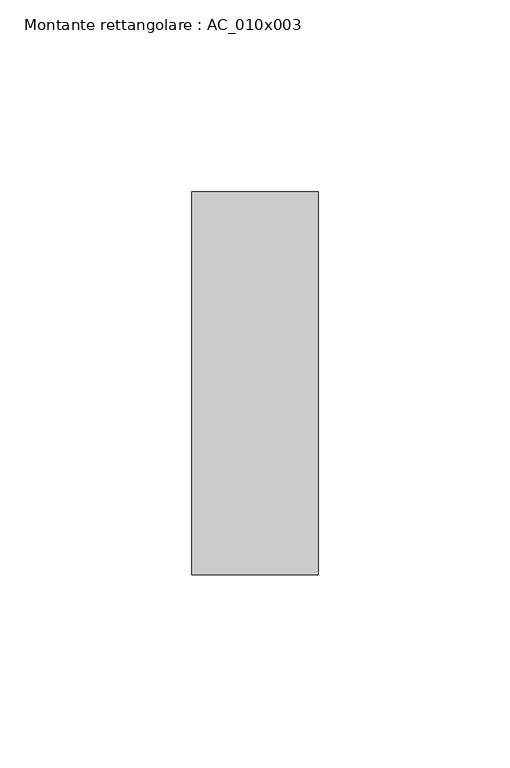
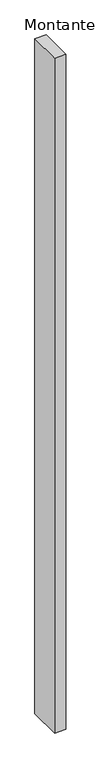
"""IFC4 building model written with IfcOpenShell, lengths in millimetres: member geometry, Montante rettangolare : AC_010x003."""

import ifcopenshell
import ifcopenshell.guid

model = None  # the IFC model being written
_history = None  # IfcOwnerHistory: only IFC2X3 demands one
_inside = {}  # id of a spatial element -> (the spatial element, [elements in it])
_under = {}  # id of a project, library or spatial element -> (it, [spatial elements below it])
_declared = {}  # id of a project -> (the project, [libraries it declares])
_typed = {}  # id of a type object -> (the type object, [elements of that type])
_made_of = {}  # id of a material, layer set ... -> (it, [elements and type objects made of it])


def new_model(schema):
    """Start an empty IFC model of exactly this schema.

    Asked for "IFC4X3", IfcOpenShell would pick the latest addendum, in which some entities
    have other attributes; the version numbers below select the first issue.
    IFC2X3 requires an IfcOwnerHistory on every rooted entity: one is made here for all.
    """
    global model, _history
    if schema == "IFC4X3":
        model = ifcopenshell.file(schema_version=(4, 3, 0, 0))
    else:
        model = ifcopenshell.file(schema=schema)
    _inside.clear()
    _under.clear()
    _declared.clear()
    _typed.clear()
    _made_of.clear()
    _history = None
    if model.schema == "IFC2X3":
        org = make("IfcOrganization", Name="unknown")
        user = make(
            "IfcPersonAndOrganization",
            ThePerson=make("IfcPerson", FamilyName="unknown"),
            TheOrganization=org,
        )
        app = make(
            "IfcApplication",
            ApplicationDeveloper=org,
            Version="unknown",
            ApplicationFullName="unknown",
            ApplicationIdentifier="unknown",
        )
        _history = make(
            "IfcOwnerHistory",
            OwningUser=user,
            OwningApplication=app,
            ChangeAction="ADDED",
            CreationDate=0,
        )
    return model


def make(cls, **values):
    """One entity of the class cls with the attributes given. An attribute that is None is left unset."""
    return model.create_entity(
        cls, **{name: value for name, value in values.items() if value is not None}
    )


def rooted(cls, **values):
    """An entity with a GlobalId (a new one), such as an element, a storey or a relation."""
    return make(cls, GlobalId=ifcopenshell.guid.new(), OwnerHistory=_history, **values)


def si_unit(unit_type, name, prefix=None):
    """IfcSIUnit, for example si_unit("LENGTHUNIT", "METRE", prefix="MILLI")."""
    return make("IfcSIUnit", UnitType=unit_type, Prefix=prefix, Name=name)


def assignment(units):
    """IfcUnitAssignment: the units of a project."""
    return None if units is None else make("IfcUnitAssignment", Units=units)


def point(xyz):
    """IfcCartesianPoint."""
    return None if xyz is None else make("IfcCartesianPoint", Coordinates=xyz)


def direction(xyz):
    """IfcDirection."""
    return None if xyz is None else make("IfcDirection", DirectionRatios=xyz)


def frame(location, z_axis=None, x_axis=None):
    """IfcAxis2Placement3D, a coordinate frame: its origin and axes. An axis left out is left unset."""
    return make(
        "IfcAxis2Placement3D",
        Location=point(location),
        Axis=direction(z_axis),
        RefDirection=direction(x_axis),
    )


def origin():
    """The frame at (0, 0, 0) with its axes left unset."""
    return frame((0.0, 0.0, 0.0))


def place(relative_to, where):
    """IfcLocalPlacement: puts the frame where relative to a parent placement (None: the world)."""
    return make(
        "IfcLocalPlacement", PlacementRelTo=relative_to, RelativePlacement=where
    )


def context(
    kind, dimensions, precision=None, world=None, true_north=None, identifier=None
):
    """IfcGeometricRepresentationContext, for example the 3D "Model" context."""
    return make(
        "IfcGeometricRepresentationContext",
        ContextIdentifier=identifier,
        ContextType=kind,
        CoordinateSpaceDimension=dimensions,
        Precision=precision,
        WorldCoordinateSystem=world,
        TrueNorth=true_north,
    )


def project(units=None, contexts=None):
    """IfcProject with its units and contexts."""
    return rooted(
        "IfcProject",
        Name="project",
        RepresentationContexts=contexts,
        UnitsInContext=assignment(units),
    )


def spatial(cls, under=None, at=None, **own):
    """A site, building, storey or space (cls), placed at a placement, below another one or the project."""
    s = rooted(cls, ObjectPlacement=at, **own)
    if under is not None:
        _under.setdefault(under.id(), (under, []))[1].append(s)
    return s


def polyline(points):
    """IfcPolyline through the points."""
    return make("IfcPolyline", Points=[point(p) for p in points])


def outline(outer, holes=None, kind="AREA"):
    """IfcArbitraryClosedProfileDef: a profile drawn as a closed curve; with holes, ...WithVoids."""
    if holes is None:
        return make("IfcArbitraryClosedProfileDef", ProfileType=kind, OuterCurve=outer)
    return make(
        "IfcArbitraryProfileDefWithVoids",
        ProfileType=kind,
        OuterCurve=outer,
        InnerCurves=holes,
    )


def extrude(swept, where, along, depth):
    """IfcExtrudedAreaSolid: the profile swept, set in the frame where, extruded along a direction by depth."""
    return make(
        "IfcExtrudedAreaSolid",
        SweptArea=swept,
        Position=where,
        ExtrudedDirection=direction(along),
        Depth=depth,
    )


def shape(context_of_items, identifier, shape_type, items):
    """IfcShapeRepresentation: the items that make up one representation, for example the "Body"."""
    return make(
        "IfcShapeRepresentation",
        ContextOfItems=context_of_items,
        RepresentationIdentifier=identifier,
        RepresentationType=shape_type,
        Items=items,
    )


def source(mapping_origin, context_of_items, identifier, shape_type, items):
    """IfcRepresentationMap: a shape defined once, which mapped items show again and again."""
    return make(
        "IfcRepresentationMap",
        MappingOrigin=mapping_origin,
        MappedRepresentation=shape(context_of_items, identifier, shape_type, items),
    )


def transform(
    local_origin,
    x_axis=None,
    y_axis=None,
    z_axis=None,
    scale=None,
    scale2=None,
    scale3=None,
    uniform=True,
):
    """IfcCartesianTransformationOperator3D, or its non-uniform kind. x_axis, y_axis, z_axis: its Axis1, 2, 3."""
    if uniform:
        return make(
            "IfcCartesianTransformationOperator3D",
            Axis1=direction(x_axis),
            Axis2=direction(y_axis),
            LocalOrigin=point(local_origin),
            Scale=scale,
            Axis3=direction(z_axis),
        )
    return make(
        "IfcCartesianTransformationOperator3DnonUniform",
        Axis1=direction(x_axis),
        Axis2=direction(y_axis),
        LocalOrigin=point(local_origin),
        Scale=scale,
        Axis3=direction(z_axis),
        Scale2=scale2,
        Scale3=scale3,
    )


def mapped(mapping_source, mapping_target):
    """IfcMappedItem: shows the shape of a source again, moved by a transform."""
    return make(
        "IfcMappedItem", MappingSource=mapping_source, MappingTarget=mapping_target
    )


def made_of(thing, what):
    """Note that an element or type object is made of a material, layer set ...; save() writes the relation."""
    if what is not None:
        _made_of.setdefault(what.id(), (what, []))[1].append(thing)
    return thing


def element(
    cls,
    number,
    at=None,
    inside=None,
    cuts=None,
    type_object=None,
    material=None,
    context=None,
    identifier="Body",
    shape_type=None,
    held_by="IfcProductDefinitionShape",
    body=None,
    shapes=None,
    **own,
):
    """One element of the class cls, such as IfcWall. Its Tag is "e" and its number.

    at: its placement. inside: the storey or other place that contains it. cuts: it is an
    opening in that element (IfcRelVoidsElement). A single representation is given by context,
    identifier, shape_type and body (its items); several are given by shapes. held_by: the class
    of the entity that holds the representations. save() writes the other relations.
    """
    e = rooted(cls, Tag="e%d" % number, ObjectPlacement=at, **own)
    if body is not None:
        shapes = [shape(context, identifier, shape_type, body)]
    if shapes is not None:
        e.Representation = make(held_by, Representations=shapes)
    if inside is not None:
        _inside.setdefault(inside.id(), (inside, []))[1].append(e)
    if cuts is not None:
        rooted(
            "IfcRelVoidsElement", RelatingBuildingElement=cuts, RelatedOpeningElement=e
        )
    if type_object is not None:
        _typed.setdefault(type_object.id(), (type_object, []))[1].append(e)
    return made_of(e, material)


def aggregate(whole, parts):
    """IfcRelAggregates: a whole, such as a stair, and the parts it consists of."""
    return rooted("IfcRelAggregates", RelatingObject=whole, RelatedObjects=parts)


def save(model, path):
    """Write the relations noted so far, then the file.

    IfcRelAggregates (storeys below a building ...), IfcRelContainedInSpatialStructure (elements
    in a storey), IfcRelDefinesByType, IfcRelAssociatesMaterial and IfcRelDeclares: one each for
    every whole, place, type object, material and project.
    """
    for whole, parts in _under.values():
        aggregate(whole, parts)
    for where, things in _inside.values():
        rooted(
            "IfcRelContainedInSpatialStructure",
            RelatedElements=things,
            RelatingStructure=where,
        )
    for kind, things in _typed.values():
        rooted("IfcRelDefinesByType", RelatedObjects=things, RelatingType=kind)
    for what, things in _made_of.values():
        rooted("IfcRelAssociatesMaterial", RelatedObjects=things, RelatingMaterial=what)
    for by, libraries in _declared.values():
        rooted("IfcRelDeclares", RelatingContext=by, RelatedDefinitions=libraries)
    model.write(path)


def montante_rettangolare_ac_010x003_4d17a41f(model_context):
    return source(origin(), model_context, "Body", "SweptSolid", [
        extrude(outline(polyline([(0.0, 50.0), (0.0, -50.0), (-33.0, -50.0), (-33.0, 50.0), (0.0, 50.0)])), frame((0.0, 0.0, -2100.0), z_axis=(0.0, 0.0, 1.0), x_axis=(1.0, 0.0, 0.0)), (0.0, 0.0, 1.0), 2100.0),
    ])


if __name__ == "__main__":
    model = new_model("IFC4")
    model_context = context("Model", 3, world=origin())
    ifc_project = project(units=[si_unit("LENGTHUNIT", "METRE", prefix="MILLI")], contexts=[model_context])
    site = spatial("IfcSite", under=ifc_project)
    building = spatial("IfcBuilding", under=site)
    placement = place(None, origin())
    montante_rettangolare_ac_010x003_shape = montante_rettangolare_ac_010x003_4d17a41f(model_context)
    element("IfcMember", 1, ObjectType="Montante rettangolare : AC_010x003", at=placement, inside=building, context=model_context, shape_type="MappedRepresentation", body=[
        mapped(montante_rettangolare_ac_010x003_shape, transform((0.0, 0.0, 0.0), x_axis=(1.0, 0.0, 0.0), y_axis=(0.0, 1.0, 0.0), z_axis=(0.0, 0.0, 1.0))),
    ])
    save(model, "model.ifc")
